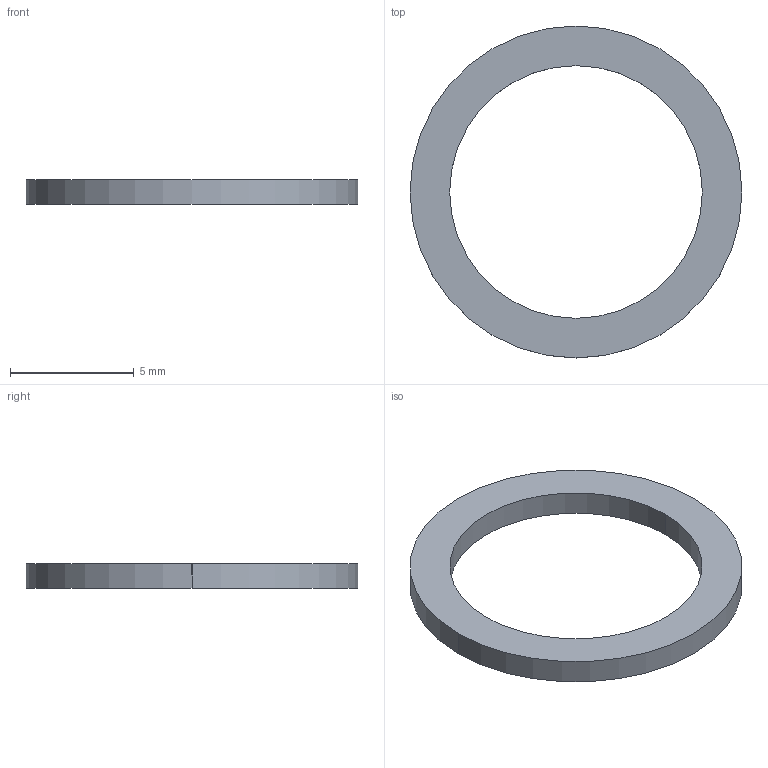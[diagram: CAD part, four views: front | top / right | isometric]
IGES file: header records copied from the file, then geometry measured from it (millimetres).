
Start section:  PTC IGES file: 1820209000\1820209000.iges
Global section: file name: 1820209000\1820209000.iges; native system: Creo Parametric by PTC Inc.; preprocessor: 2023092; author: GND7HC; organization: Unknown; date: 20250103.154938; units: millimetre
Bounding box: 13.4 x 13.4 x 1 mm (x, y, z)
Surface area: 192.8 mm2 (no closed solid volume)
Topology: 0 solids, 0 shells, 6 faces, 24 edges, 24 vertices
Faces by surface type: revolution 4, bspline 2
